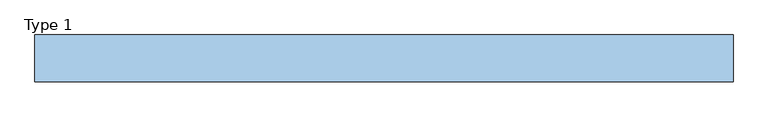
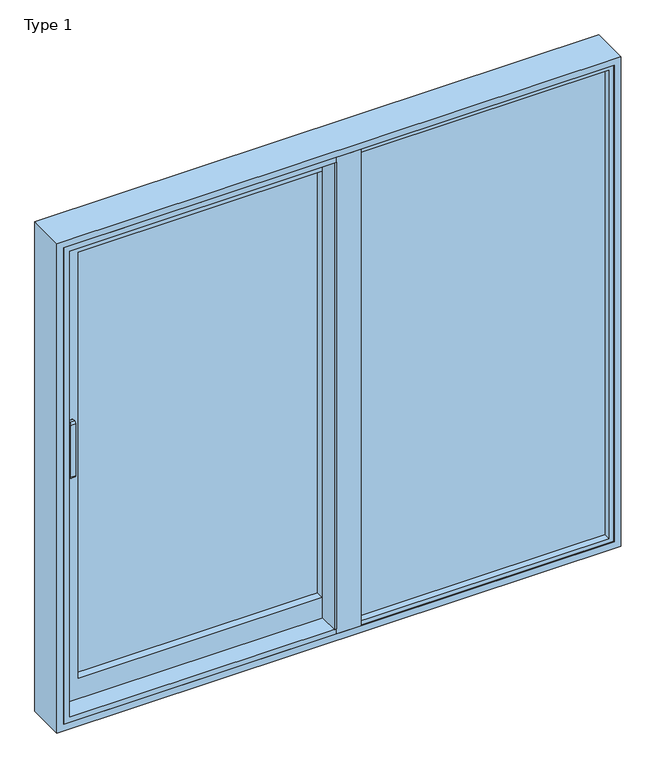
"""IFC4 building model written with IfcOpenShell, lengths in millimetres: window geometry, ETEM_ES70_Single_Lift_Sliding_HT : Type 1."""

from ifc_helpers import new_model, si_unit, point, frame, frame_2d, origin, place, context, project, spatial, polyline, circle_curve, trimmed, segment, composite_curve, outline, extrude, faceted_brep, source, transform, mapped, element, save


def type_1_e79a48ff(model_context):
    return source(origin(), model_context, "Body", "SolidModel", [
        extrude(outline(composite_curve([segment(polyline([(45.5992454, 1090.0), (14.0255606, 1090.0)]), True, "CONTINUOUS"), segment(trimmed(circle_curve(frame_2d((14.0255606, 1098.4263152)), 8.4263152), [point((14.0255606, 1090.0))], [point((5.5992454, 1098.4263152))], False, "CARTESIAN"), True, "CONTINUOUS"), segment(polyline([(5.5992454, 1098.4263152), (5.5992454, 1331.5736848)]), True, "CONTINUOUS"), segment(trimmed(circle_curve(frame_2d((14.0255606, 1331.5736848)), 8.4263152), [point((5.5992454, 1331.5736848))], [point((14.0255606, 1340.0))], False, "CARTESIAN"), True, "CONTINUOUS"), segment(polyline([(14.0255606, 1340.0), (25.5992454, 1340.0)]), True, "CONTINUOUS"), segment(trimmed(circle_curve(frame_2d((25.5992454, 1335.0)), 5.0), [point((25.5992454, 1340.0))], [point((25.5992454, 1330.0))], False, "CARTESIAN"), True, "CONTINUOUS"), segment(polyline([(25.5992454, 1330.0), (19.1347793, 1330.0)]), True, "CONTINUOUS"), segment(trimmed(circle_curve(frame_2d((19.1347793, 1326.4644661)), 3.5355339), [point((19.1347793, 1330.0))], [point((15.5992454, 1326.4644661))], True, "CARTESIAN"), True, "CONTINUOUS"), segment(polyline([(15.5992454, 1326.4644661), (15.5992454, 1113.5355339)]), True, "CONTINUOUS"), segment(trimmed(circle_curve(frame_2d((19.1347793, 1113.5355339)), 3.5355339), [point((15.5992454, 1113.5355339))], [point((19.1347793, 1110.0))], True, "CARTESIAN"), True, "CONTINUOUS"), segment(polyline([(19.1347793, 1110.0), (45.5992454, 1110.0), (45.5992454, 1090.0)]), True, "CONTINUOUS")], self_intersect=False)), frame((-1118.5, 0.0, 0.0), z_axis=(1.0, 0.0, 0.0), x_axis=(0.0, 1.0, 0.0)), (0.0, 0.0, 1.0), 20.0),
        extrude(outline(polyline([(-1093.5, 45.5992454), (-1123.5, 45.5992454), (-1123.5, 58.5992454), (-1093.5, 58.5992454), (-1093.5, 45.5992454)])), frame((0.0, 0.0, 1065.0), z_axis=(0.0, 0.0, 1.0), x_axis=(1.0, 0.0, 0.0)), (0.0, 0.0, 1.0), 70.0),
        faceted_brep([(1200.0, -31.4, 2200.0), (1200.0, -31.4, 0.0), (1200.0, 130.0, 0.0), (1200.0, 130.0, 2200.0), (-1200.0, -31.4, 2200.0), (-1200.0, -31.4, 0.0), (1171.3, -31.4, 28.7), (-1171.3, -31.4, 28.7), (-1171.3, -31.4, 2171.3), (1171.3, -31.4, 2171.3), (-1200.0, 130.0, 0.0), (-1200.0, 130.0, 2200.0), (1183.5, 130.0, 2183.5), (-1183.5, 130.0, 2183.5), (-1183.5, 130.0, 16.5), (1183.5, 130.0, 16.5), (1183.5, 98.1, 2183.5), (1183.5, 98.1, 16.5), (-1183.5, 98.1, 16.5), (-1183.5, 98.1, 2183.5), (1160.0, 98.1, 2160.0), (-1160.0, 98.1, 2160.0), (-1160.0, 98.1, 40.0), (1160.0, 98.1, 40.0), (1160.0, 112.1, 2160.0), (1160.0, 112.1, 40.0), (-1160.0, 112.1, 40.0), (-1160.0, 112.1, 2160.0), (1151.8, 112.1, 2151.8), (-1151.8, 112.1, 2151.8), (-1151.8, 112.1, 48.2), (1151.8, 112.1, 48.2), (1151.8, 89.1, 2151.8), (1151.8, 89.1, 48.2), (-1151.8, 89.1, 48.2), (1183.5, 89.1, 2183.5), (-1183.5, 89.1, 2183.5), (-1183.5, 89.1, 16.5), (1183.5, 89.1, 16.5), (-1151.8, 89.1, 2151.8), (1183.5, 38.6, 2183.5), (1183.5, 38.6, 16.5), (-1183.5, 38.6, 16.5), (-1183.5, 38.6, 2183.5), (1152.0, 38.6, 2152.0), (-1152.0, 38.6, 2152.0), (-1152.0, 38.6, 48.0), (1152.0, 38.6, 48.0), (1171.3, -26.4, 2171.3), (1171.3, -26.4, 28.7), (-1171.3, -26.4, 28.7), (-1171.3, -26.4, 2171.3), (1152.0, -26.4, 48.0), (-1152.0, -26.4, 48.0), (-1152.0, -26.4, 2152.0), (1152.0, -26.4, 2152.0)], [[[0, 1, 2, 3]], [[0, 4, 5, 1], [6, 7, 8, 9]], [[2, 1, 5, 10]], [[2, 10, 11, 3], [12, 13, 14, 15]], [[16, 12, 15, 17]], [[17, 15, 14, 18]], [[17, 18, 19, 16], [20, 21, 22, 23]], [[24, 20, 23, 25]], [[25, 23, 22, 26]], [[25, 26, 27, 24], [28, 29, 30, 31]], [[32, 28, 31, 33]], [[33, 31, 30, 34]], [[35, 36, 37, 38], [33, 34, 39, 32]], [[40, 35, 38, 41]], [[41, 38, 37, 42]], [[41, 42, 43, 40], [44, 45, 46, 47]], [[9, 48, 49, 6]], [[6, 49, 50, 7]], [[10, 5, 4, 11]], [[18, 14, 13, 19]], [[26, 22, 21, 27]], [[34, 30, 29, 39]], [[42, 37, 36, 43]], [[7, 50, 51, 8]], [[11, 4, 0, 3]], [[19, 13, 12, 16]], [[27, 21, 20, 24]], [[39, 29, 28, 32]], [[43, 36, 35, 40]], [[8, 51, 48, 9]], [[48, 51, 50, 49], [52, 53, 54, 55]], [[53, 46, 45, 54]], [[52, 47, 46, 53]], [[55, 44, 47, 52]], [[54, 45, 44, 55]]]),
        faceted_brep([(84.05, 70.9992454, 2160.9811707), (84.05, 58.5992454, 2160.9811707), (84.05, 58.5992454, 38.8188293), (84.05, 70.9992454, 38.8188293), (-1161.0, 58.5992454, 2160.9811707), (-1161.0, 58.5992454, 38.8188293), (-18.95, 58.5992454, 141.8188293), (-1058.0, 58.5992454, 141.8188293), (-1058.0, 58.5992454, 2057.9811707), (-18.95, 58.5992454, 2057.9811707), (-1161.0, 70.9992454, 38.8188293), (-1161.0, 70.9992454, 2160.9811707), (52.95, 70.9992454, 2129.8811707), (-1129.9, 70.9992454, 2129.8811707), (-1129.9, 70.9992454, 69.9188293), (52.95, 70.9992454, 69.9188293), (52.95, 116.1992454, 2129.8811707), (52.95, 116.1992454, 69.9188293), (-1129.9, 116.1992454, 69.9188293), (84.05, 116.1992454, 2160.9811707), (-1161.0, 116.1992454, 2160.9811707), (-1161.0, 116.1992454, 38.8188293), (84.05, 116.1992454, 38.8188293), (-1129.9, 116.1992454, 2129.8811707), (84.05, 128.5992454, 2160.9811707), (84.05, 128.5992454, 38.8188293), (-1161.0, 128.5992454, 38.8188293), (-1161.0, 128.5992454, 2160.9811707), (-18.95, 128.5992454, 2057.9811707), (-1058.0, 128.5992454, 2057.9811707), (-1058.0, 128.5992454, 141.8188293), (-18.95, 128.5992454, 141.8188293)], [[[0, 1, 2, 3]], [[1, 4, 5, 2], [6, 7, 8, 9]], [[3, 2, 5, 10]], [[3, 10, 11, 0], [12, 13, 14, 15]], [[16, 12, 15, 17]], [[17, 15, 14, 18]], [[19, 20, 21, 22], [17, 18, 23, 16]], [[24, 19, 22, 25]], [[25, 22, 21, 26]], [[25, 26, 27, 24], [28, 29, 30, 31]], [[9, 28, 31, 6]], [[6, 31, 30, 7]], [[10, 5, 4, 11]], [[18, 14, 13, 23]], [[26, 21, 20, 27]], [[7, 30, 29, 8]], [[11, 4, 1, 0]], [[23, 13, 12, 16]], [[27, 20, 19, 24]], [[8, 29, 28, 9]]]),
        extrude(outline(polyline([(93.95, 46.7992454), (84.05, 46.7992454), (84.05, 128.5992454), (93.95, 128.5992454), (93.95, 46.7992454)])), frame((0.0, 0.0, 38.8188293), z_axis=(0.0, 0.0, 1.0), x_axis=(1.0, 0.0, 0.0)), (0.0, 0.0, 1.0), 2122.1623414),
        extrude(outline(polyline([(-18.95, 54.6), (-9.05, 54.6), (-9.05, -31.4), (-18.95, -31.4), (-18.95, 54.6)])), frame((0.0, 0.0, 52.0), z_axis=(0.0, 0.0, 1.0), x_axis=(1.0, 0.0, 0.0)), (0.0, 0.0, 1.0), 2096.0),
        extrude(outline(polyline([(-1058.1, 120.6015137), (-18.95, 120.6015137), (-18.95, 114.6015137), (-1058.1, 114.6015137), (-1058.1, 120.6015137)])), frame((0.0, 0.0, 141.8188293), z_axis=(0.0, 0.0, 1.0), x_axis=(1.0, 0.0, 0.0)), (0.0, 0.0, 1.0), 1916.1623414),
        extrude(outline(polyline([(93.95, 30.6000045), (1152.0, 30.6000045), (1152.0, 24.6000045), (93.95, 24.6000045), (93.95, 30.6000045)])), frame((0.0, 0.0, 48.0), z_axis=(0.0, 0.0, 1.0), x_axis=(1.0, 0.0, 0.0)), (0.0, 0.0, 1.0), 2104.0),
        extrude(outline(polyline([(-9.05, -31.4), (-9.05, 38.6), (93.95, 38.6), (93.95, -31.4), (-9.05, -31.4)])), frame((0.0, 0.0, 28.7), z_axis=(0.0, 0.0, 1.0), x_axis=(1.0, 0.0, 0.0)), (0.0, 0.0, 1.0), 2142.6),
        faceted_brep([(-9.05, 38.6, 48.0), (-9.05, 38.6, 41.879881), (-9.05, 54.6, 41.879881), (-9.05, 54.6, 52.0), (-9.05, -31.4, 52.0), (-9.05, -31.4, 28.7), (-9.05, -26.4, 28.7), (-9.05, -26.4, 48.0), (-9.05, 38.6, 2152.0), (-9.05, -26.4, 2152.0), (-9.05, -26.4, 2171.3), (-9.05, -31.4, 2171.3), (-9.05, -31.4, 2148.0), (-9.05, 54.6, 2148.0), (-9.05, 54.6, 2158.120119), (-9.05, 38.6, 2158.120119), (-1152.0, 38.6, 48.0), (-1152.0, 38.6, 2152.0), (-1158.120119, 38.6, 2158.120119), (-1158.120119, 38.6, 41.879881), (-1158.120119, 54.6, 41.879881), (-1158.120119, 54.6, 2158.120119), (-1148.0, 54.6, 2148.0), (-1148.0, 54.6, 52.0), (-1148.0, -31.4, 52.0), (-1148.0, -31.4, 2148.0), (-1171.3, -31.4, 2171.3), (-1171.3, -31.4, 28.7), (-1152.0, -26.4, 48.0), (-1152.0, -26.4, 2152.0), (-1171.3, -26.4, 28.7), (-1171.3, -26.4, 2171.3)], [[[0, 1, 2, 3, 4, 5, 6, 7]], [[8, 9, 10, 11, 12, 13, 14, 15]], [[1, 0, 16, 17, 8, 15, 18, 19]], [[2, 1, 19, 20]], [[3, 2, 20, 21, 14, 13, 22, 23]], [[4, 3, 23, 24]], [[5, 4, 24, 25, 12, 11, 26, 27]], [[0, 7, 28, 16]], [[16, 28, 29, 17]], [[20, 19, 18, 21]], [[24, 23, 22, 25]], [[21, 18, 15, 14]], [[25, 22, 13, 12]], [[17, 29, 9, 8]], [[6, 5, 27, 30]], [[7, 6, 30, 31, 10, 9, 29, 28]], [[30, 27, 26, 31]], [[31, 26, 11, 10]]]),
        extrude(outline(polyline([(-1058.1, 98.6015137), (-18.95, 98.6015137), (-18.95, 92.6015137), (-1058.1, 92.6015137), (-1058.1, 98.6015137)])), frame((0.0, 0.0, 141.8188293), z_axis=(0.0, 0.0, 1.0), x_axis=(1.0, 0.0, 0.0)), (0.0, 0.0, 1.0), 1916.1623414),
        extrude(outline(polyline([(93.95, 8.6000045), (1152.0, 8.6000045), (1152.0, 2.6000045), (93.95, 2.6000045), (93.95, 8.6000045)])), frame((0.0, 0.0, 48.0), z_axis=(0.0, 0.0, 1.0), x_axis=(1.0, 0.0, 0.0)), (0.0, 0.0, 1.0), 2104.0),
    ])


if __name__ == "__main__":
    model = new_model("IFC4")
    model_context = context("Model", 3, world=origin())
    ifc_project = project(units=[si_unit("LENGTHUNIT", "METRE", prefix="MILLI")], contexts=[model_context])
    site = spatial("IfcSite", under=ifc_project)
    building = spatial("IfcBuilding", under=site)
    placement = place(None, origin())
    type_1_shape = type_1_e79a48ff(model_context)
    element("IfcWindow", 1, ObjectType="ETEM_ES70_Single_Lift_Sliding_HT : Type 1", at=placement, inside=building, context=model_context, shape_type="MappedRepresentation", body=[
        mapped(type_1_shape, transform((0.0, 0.0, 0.0), x_axis=(1.0, 0.0, 0.0), y_axis=(0.0, 1.0, 0.0), z_axis=(0.0, 0.0, 1.0))),
    ])
    save(model, "model.ifc")
